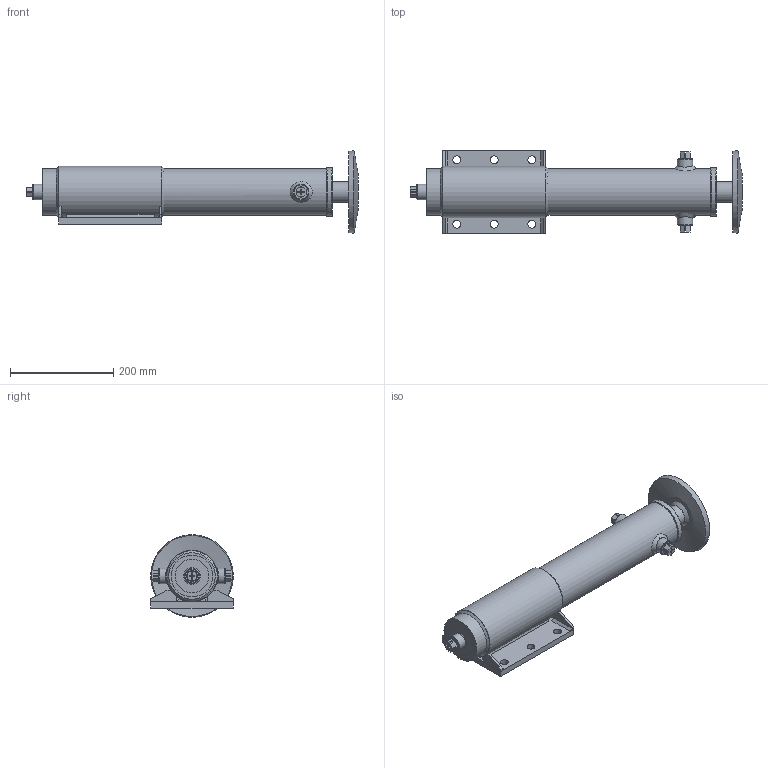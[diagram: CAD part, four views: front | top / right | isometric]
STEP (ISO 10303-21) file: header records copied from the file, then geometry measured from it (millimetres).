
FILE_DESCRIPTION( ( 'Unknown' ), '1' );
FILE_NAME( 'E:/LIBRERIA_3d/CILINDRI/HMS/HMS00800400400.stp', 'Unknown', ( 'Unknown' ), ( 'Unknown' ), 'PSStep 17.0.49', 'Unknown', ' ' );
FILE_SCHEMA( ( 'AUTOMOTIVE_DESIGN { 1 0 10303 214 1 1 1 1 }' ) );
Length unit declared in the file: millimetre
Products named in the file (42): CG09508040; STLS0800900400-oa7; Saldatura d'angolo 1-oa5; MAT_PRIMA_TUBO_FT09008000-oa6; CBSC220800; CHMSASP080; Saldatura d'angolo 1-oa3; Protrusione 1-oa4; CHMSTUB080; CHMSPR0800; CHMSRF0800; CTFV0802720; AVG3006120; Assem1; Saldatura d'angolo 1-oa0; Saldatura d'angolo 2-oa1; Saldatura con preparazione 1-oa2; CHMSCFI080; CHMSPTB080; CSCS004010; APSEP43527; SBLS0400800400
Assembly tree (29 placements, depth 3):
  Saldatura d'angolo 1-oa5
  Saldatura d'angolo 1-oa5
  Saldatura d'angolo 1-oa5
  Saldatura d'angolo 1-oa5
  Saldatura d'angolo 1-oa3
Bounding box: 642.5 x 160 x 160 mm (x, y, z)
Volume: 2832990.7 mm3; surface area: 795473 mm2
Topology: 43 solids, 43 shells, 440 faces, 936 edges, 609 vertices
Faces by surface type: plane 237, cylinder 102, cone 57, torus 40, bspline 4
Full cylindrical faces by diameter (mm): 4.25 x2, 4.917 x1, 5 x2, 6 x1, 7.5 x3, 8 x2, 12 x1, 15 x6, 18.631 x4, 20.955 x3, 22 x1, 24 x1, 25 x1, 27 x2, 27.2 x3, 28 x3, 30 x7, 34.2 x1, 40 x7, 43 x3, 48.6 x1, 50 x2, 60 x1, 74.16 x2, 75 x1, 78.34 x2, 80 x1, 80.3 x1, 80.5 x1, 80.6 x1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
Entity records: 14462 total; most frequent: CARTESIAN_POINT 4302, DIRECTION 1522, ORIENTED_EDGE 1028, AXIS2_PLACEMENT_3D 642, EDGE_LOOP 592, EDGE_CURVE 514, FACE_OUTER_BOUND 474, VERTEX_POINT 424
